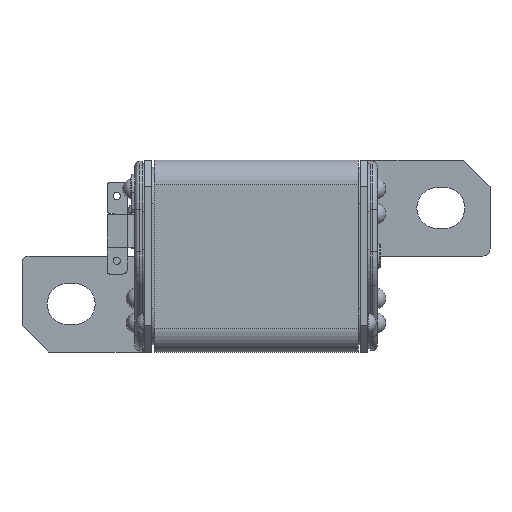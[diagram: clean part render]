
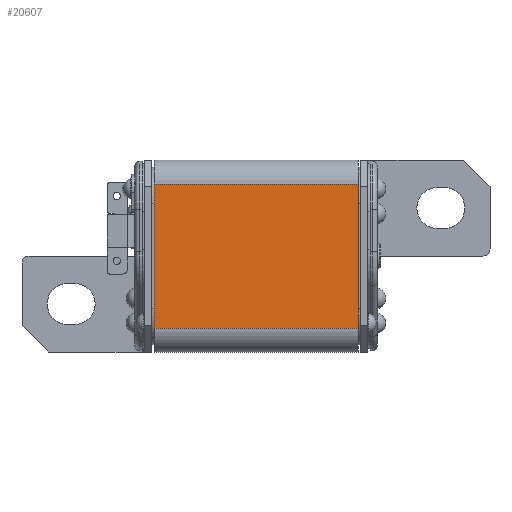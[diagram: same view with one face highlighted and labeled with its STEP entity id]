
A CAD part, left-side view. The second image highlights one B-rep face of the part: STEP entity #20607.
In plain terms, the highlighted planar face has unit normal (-1, 0, 0).
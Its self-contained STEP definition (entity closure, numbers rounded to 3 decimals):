
#829 = VECTOR ( 'NONE', #1748, 1000. ) ;
#1408 = CARTESIAN_POINT ( 'NONE',  ( -40., 42.5, 30. ) ) ;
#1464 = VERTEX_POINT ( 'NONE', #7785 ) ;
#1748 = DIRECTION ( 'NONE',  ( 0., 0., 1. ) ) ;
#2251 = CARTESIAN_POINT ( 'NONE',  ( -40., 42.5, -30. ) ) ;
#2913 = VERTEX_POINT ( 'NONE', #7649 ) ;
#3085 = CARTESIAN_POINT ( 'NONE',  ( -40., 42.5, -30. ) ) ;
#3342 = VERTEX_POINT ( 'NONE', #17590 ) ;
#3707 = ORIENTED_EDGE ( 'NONE', *, *, #18641, .F. ) ;
#4028 = EDGE_CURVE ( 'NONE', #20732, #1464, #17378, .T. ) ;
#4876 = DIRECTION ( 'NONE',  ( 0., -1., 0. ) ) ;
#5402 = EDGE_CURVE ( 'NONE', #3342, #2913, #15341, .T. ) ;
#5732 = VECTOR ( 'NONE', #4876, 1000. ) ;
#6459 = LINE ( 'NONE', #1408, #17160 ) ;
#7649 = CARTESIAN_POINT ( 'NONE',  ( -40., 42.5, 30. ) ) ;
#7785 = CARTESIAN_POINT ( 'NONE',  ( -40., -42.5, 30. ) ) ;
#8660 = DIRECTION ( 'NONE',  ( 0., 1., 0. ) ) ;
#8895 = VECTOR ( 'NONE', #15926, 1000. ) ;
#9184 = ORIENTED_EDGE ( 'NONE', *, *, #17640, .T. ) ;
#9366 = AXIS2_PLACEMENT_3D ( 'NONE', #2251, #18227, #8660 ) ;
#9424 = CARTESIAN_POINT ( 'NONE',  ( -40., 42.5, -30. ) ) ;
#11379 = PLANE ( 'NONE',  #9366 ) ;
#11596 = FACE_OUTER_BOUND ( 'NONE', #15670, .T. ) ;
#13707 = LINE ( 'NONE', #9424, #5732 ) ;
#15055 = ORIENTED_EDGE ( 'NONE', *, *, #5402, .F. ) ;
#15341 = LINE ( 'NONE', #3085, #829 ) ;
#15670 = EDGE_LOOP ( 'NONE', ( #17558, #3707, #15055, #9184 ) ) ;
#15926 = DIRECTION ( 'NONE',  ( 0., 0., 1. ) ) ;
#16878 = CARTESIAN_POINT ( 'NONE',  ( -40., -42.5, -30. ) ) ;
#17160 = VECTOR ( 'NONE', #20413, 1000. ) ;
#17378 = LINE ( 'NONE', #19339, #8895 ) ;
#17558 = ORIENTED_EDGE ( 'NONE', *, *, #4028, .T. ) ;
#17590 = CARTESIAN_POINT ( 'NONE',  ( -40., 42.5, -30. ) ) ;
#17640 = EDGE_CURVE ( 'NONE', #3342, #20732, #13707, .T. ) ;
#18227 = DIRECTION ( 'NONE',  ( 1., 0., 0. ) ) ;
#18641 = EDGE_CURVE ( 'NONE', #2913, #1464, #6459, .T. ) ;
#19339 = CARTESIAN_POINT ( 'NONE',  ( -40., -42.5, -30. ) ) ;
#20413 = DIRECTION ( 'NONE',  ( 0., -1., 0. ) ) ;
#20607 = ADVANCED_FACE ( 'NONE', ( #11596 ), #11379, .F. ) ;
#20732 = VERTEX_POINT ( 'NONE', #16878 ) ;
